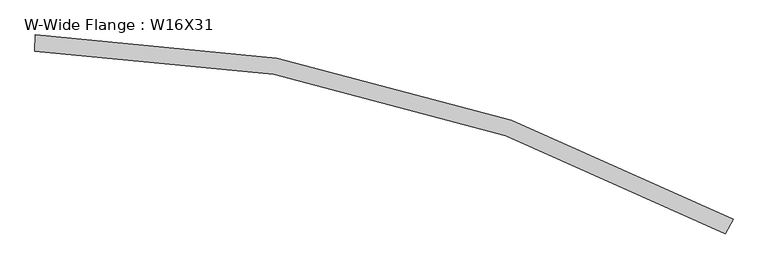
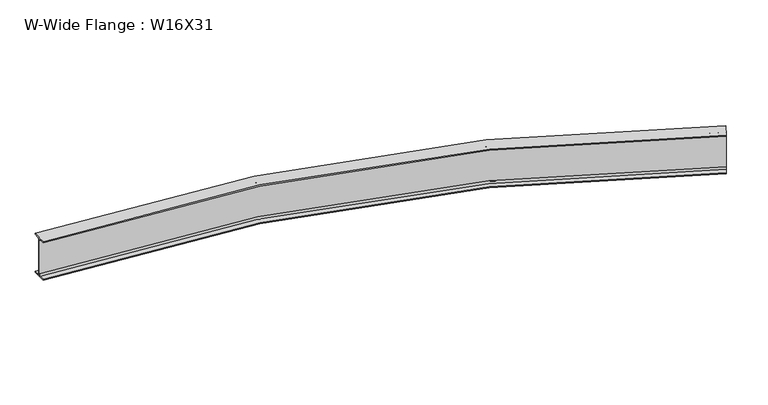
"""IFC4 building model written with IfcOpenShell, lengths in millimetres: beam geometry, W-Wide Flange : W16X31."""

from ifc_helpers import new_model, si_unit, point, frame, origin, place, context, project, spatial, polyline, circle_curve, ellipse_curve, trimmed, source, transform, mapped, element, save
from ifc_brep_helpers import plane_surface, cylinder_surface, revolved_surface, advanced_brep


def w_wide_flange_w16x31_2595adc3(model_context):
    return source(origin(), model_context, "Body", "AdvancedBrep", [
        advanced_brep(
        [(6106.6437094, -1493.8987471, -190.754), (6082.9245949, -1537.162934, -190.754), (6074.5603254, -1552.4195456, -173.355), (6074.5603254, -1552.4195456, 173.355), (6082.9245949, -1537.162934, 190.754), (6106.6437094, -1493.8987471, 190.754), (6106.6437094, -1493.8987471, 201.93), (6039.1190231, -1617.0652612, 201.93), (6039.1190231, -1617.0652612, 190.754), (6062.8381376, -1573.8010743, 190.754), (6071.202407, -1558.5444627, 173.355), (6071.202407, -1558.5444627, -173.355), (6062.8381376, -1573.8010743, -190.754), (6039.1190231, -1617.0652612, -190.754), (6039.1190231, -1617.0652612, -201.93), (6106.6437094, -1493.8987471, -201.93), (187.278858, 68.8503861, -190.754), (187.278858, 68.8503861, -201.93), (185.2080076, -71.5963477, -201.93), (185.2080076, -71.5963477, -190.754), (185.9354266, -22.2622102, -190.754), (186.1919424, -4.8651012, -173.355), (186.1919424, -4.8651012, 173.355), (185.9354266, -22.2622102, 190.754), (185.2080076, -71.5963477, 190.754), (185.2080076, -71.5963477, 201.93), (187.278858, 68.8503861, 201.93), (187.278858, 68.8503861, 190.754), (186.551439, 19.5162486, 190.754), (186.2949232, 2.1191396, 173.355), (186.2949232, 2.1191396, -173.355), (186.551439, 19.5162486, -190.754)],
        [
            (0, 1),
            (1, 2, circle_curve(frame((6082.9245949, -1537.162934, -173.355), z_axis=(-0.8768671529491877, 0.4807327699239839, 0.0), x_axis=(-0.4807327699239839, -0.8768671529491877, 0.0)), 17.399)),
            (2, 3),
            (3, 4, circle_curve(frame((6082.9245949, -1537.162934, 173.355), z_axis=(-0.8768671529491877, 0.4807327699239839, 0.0), x_axis=(-0.4807327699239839, -0.8768671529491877, 0.0)), 17.399)),
            (4, 5),
            (5, 6),
            (6, 7),
            (7, 8),
            (8, 9),
            (9, 10, circle_curve(frame((6062.8381376, -1573.8010743, 173.355), z_axis=(-0.8768671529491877, 0.4807327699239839, 0.0), x_axis=(-0.4807327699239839, -0.8768671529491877, 0.0)), 17.399)),
            (10, 11),
            (11, 12, circle_curve(frame((6062.8381376, -1573.8010743, -173.355), z_axis=(-0.8768671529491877, 0.4807327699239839, 0.0), x_axis=(-0.4807327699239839, -0.8768671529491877, 0.0)), 17.399)),
            (12, 13),
            (13, 14),
            (14, 15),
            (15, 0),
            (16, 17),
            (17, 18),
            (18, 19),
            (19, 20),
            (20, 21, circle_curve(frame((185.9354266, -22.2622102, -173.355), z_axis=(0.999891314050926, -0.014743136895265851, 0.0), x_axis=(-0.014743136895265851, -0.999891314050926, 0.0)), 17.399)),
            (21, 22),
            (22, 23, circle_curve(frame((185.9354266, -22.2622102, 173.355), z_axis=(0.999891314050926, -0.014743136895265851, 0.0), x_axis=(-0.014743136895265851, -0.999891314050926, 0.0)), 17.399)),
            (23, 24),
            (24, 25),
            (25, 26),
            (26, 27),
            (27, 28),
            (28, 29, circle_curve(frame((186.551439, 19.5162486, 173.355), z_axis=(0.999891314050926, -0.014743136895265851, 0.0), x_axis=(-0.014743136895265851, -0.999891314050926, 0.0)), 17.399)),
            (29, 30),
            (30, 31, circle_curve(frame((186.551439, 19.5162486, -173.355), z_axis=(0.999891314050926, -0.014743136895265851, 0.0), x_axis=(-0.014743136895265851, -0.999891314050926, 0.0)), 17.399)),
            (31, 16),
            (0, 16, circle_curve(frame((0.0, -12632.5512762, -190.754), z_axis=(0.0, 0.0, 1.0), x_axis=(-0.5014171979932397, -0.8652056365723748, 0.0)), 12702.7822762)),
            (31, 1, circle_curve(frame((0.0, -12632.5512762, -190.754), z_axis=(0.0, 0.0, -1.0), x_axis=(-0.5014171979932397, -0.8652056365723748, 0.0)), 12653.4427762)),
            (30, 2, circle_curve(frame((0.0, -12632.5512762, -173.355), z_axis=(0.0, 0.0, -1.0), x_axis=(-0.5014171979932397, -0.8652056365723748, 0.0)), 12636.0437762)),
            (29, 3, circle_curve(frame((0.0, -12632.5512762, 173.355), z_axis=(0.0, 0.0, -1.0), x_axis=(-0.5014171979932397, -0.8652056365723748, 0.0)), 12636.0437762)),
            (28, 4, circle_curve(frame((0.0, -12632.5512762, 190.754), z_axis=(0.0, 0.0, -1.0), x_axis=(-0.5014171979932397, -0.8652056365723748, 0.0)), 12653.4427762)),
            (27, 5, circle_curve(frame((0.0, -12632.5512762, 190.754), z_axis=(0.0, 0.0, -1.0), x_axis=(-0.5014171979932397, -0.8652056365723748, 0.0)), 12702.7822762)),
            (26, 6, circle_curve(frame((0.0, -12632.5512762, 201.93), z_axis=(0.0, 0.0, -1.0), x_axis=(-0.5014171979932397, -0.8652056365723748, 0.0)), 12702.7822762)),
            (25, 7, circle_curve(frame((0.0, -12632.5512762, 201.93), z_axis=(0.0, 0.0, -1.0), x_axis=(-0.5014171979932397, -0.8652056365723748, 0.0)), 12562.3202762)),
            (24, 8, circle_curve(frame((0.0, -12632.5512762, 190.754), z_axis=(0.0, 0.0, -1.0), x_axis=(-0.5014171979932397, -0.8652056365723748, 0.0)), 12562.3202762)),
            (23, 9, circle_curve(frame((0.0, -12632.5512762, 190.754), z_axis=(0.0, 0.0, -1.0), x_axis=(-0.5014171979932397, -0.8652056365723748, 0.0)), 12611.6597762)),
            (22, 10, circle_curve(frame((0.0, -12632.5512762, 173.355), z_axis=(0.0, 0.0, -1.0), x_axis=(-0.5014171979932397, -0.8652056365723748, 0.0)), 12629.0587762)),
            (21, 11, circle_curve(frame((0.0, -12632.5512762, -173.355), z_axis=(0.0, 0.0, -1.0), x_axis=(-0.5014171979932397, -0.8652056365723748, 0.0)), 12629.0587762)),
            (20, 12, circle_curve(frame((0.0, -12632.5512762, -190.754), z_axis=(0.0, 0.0, -1.0), x_axis=(-0.5014171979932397, -0.8652056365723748, 0.0)), 12611.6597762)),
            (19, 13, circle_curve(frame((0.0, -12632.5512762, -190.754), z_axis=(0.0, 0.0, -1.0), x_axis=(-0.5014171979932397, -0.8652056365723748, 0.0)), 12562.3202762)),
            (18, 14, circle_curve(frame((0.0, -12632.5512762, -201.93), z_axis=(0.0, 0.0, -1.0), x_axis=(-0.5014171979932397, -0.8652056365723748, 0.0)), 12562.3202762)),
            (17, 15, circle_curve(frame((0.0, -12632.5512762, -201.93), z_axis=(0.0, 0.0, -1.0), x_axis=(-0.5014171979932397, -0.8652056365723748, 0.0)), 12702.7822762)),
        ],
        [
            plane_surface(frame((6072.8813662, -1555.4820042, 0.0), z_axis=(0.8768671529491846, -0.4807327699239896, 0.0), x_axis=(0.0, 0.0, 1.0))),
            plane_surface(frame((186.2434328, -1.3729808, 0.0), z_axis=(-0.9998913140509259, 0.014743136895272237, 0.0), x_axis=(0.0, 0.0, 1.0))),
            plane_surface(frame((0.0, -12632.5512762, -190.754), z_axis=(0.0, 0.0, 1.0), x_axis=(-0.5014171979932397, -0.8652056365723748, 0.0))),
            revolved_surface(trimmed(ellipse_curve(frame((-6344.6538218, -23580.3812883, -173.355), z_axis=(-0.865205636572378, 0.5014171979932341, 0.0), x_axis=(0.5014171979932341, 0.865205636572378, 0.0)), 17.399, 17.399), [point((-6335.929664, -23565.3275754, -173.355))], [point((-6344.6538218, -23580.3812883, -190.754))], True, "CARTESIAN"), (0.0, -12632.5512762, 0.0), (0.0, 0.0, -1.0)),
            cylinder_surface(frame((0.0, -12632.5512762, 0.0), z_axis=(0.0, 0.0, -1.0), x_axis=(-0.5014171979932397, -0.8652056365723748, 0.0)), 12636.0437762),
            revolved_surface(trimmed(ellipse_curve(frame((-6344.6538218, -23580.3812883, 173.355), z_axis=(-0.865205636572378, 0.5014171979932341, 0.0), x_axis=(0.5014171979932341, 0.865205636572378, 0.0)), 17.399, 17.399), [point((-6344.6538218, -23580.3812883, 190.754))], [point((-6335.929664, -23565.3275754, 173.355))], True, "CARTESIAN"), (0.0, -12632.5512762, 0.0), (0.0, 0.0, -1.0)),
            plane_surface(frame((0.0, -12632.5512762, 190.754), z_axis=(0.0, 0.0, -1.0), x_axis=(-0.5014171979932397, -0.8652056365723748, 0.0))),
            cylinder_surface(frame((0.0, -12632.5512762, 0.0), z_axis=(0.0, 0.0, -1.0), x_axis=(-0.5014171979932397, -0.8652056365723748, 0.0)), 12702.7822762),
            plane_surface(frame((0.0, -12632.5512762, 201.93), z_axis=(0.0, 0.0, 1.0), x_axis=(-0.5014171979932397, -0.8652056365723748, 0.0))),
            revolved_surface(polyline([(-6298.963433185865, -23501.54158759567, 190.754), (-6298.963433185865, -23501.54158759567, 201.93)]), (0.0, -12632.5512762, 0.0), (0.0, 0.0, -1.0)),
            revolved_surface(trimmed(ellipse_curve(frame((-6323.703107, -23544.2304011, 173.355), z_axis=(-0.865205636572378, 0.5014171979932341, 0.0), x_axis=(0.5014171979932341, 0.865205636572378, 0.0)), 17.399, 17.399), [point((-6332.4272649, -23559.284114, 173.355))], [point((-6323.703107, -23544.2304011, 190.754))], True, "CARTESIAN"), (0.0, -12632.5512762, 0.0), (0.0, 0.0, -1.0)),
            revolved_surface(polyline([(-6332.427264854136, -23559.284113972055, -173.355), (-6332.427264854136, -23559.284113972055, 173.355)]), (0.0, -12632.5512762, 0.0), (0.0, 0.0, -1.0)),
            revolved_surface(trimmed(ellipse_curve(frame((-6323.703107, -23544.2304011, -173.355), z_axis=(-0.865205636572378, 0.5014171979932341, 0.0), x_axis=(0.5014171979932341, 0.865205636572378, 0.0)), 17.399, 17.399), [point((-6323.703107, -23544.2304011, -190.754))], [point((-6332.4272649, -23559.284114, -173.355))], True, "CARTESIAN"), (0.0, -12632.5512762, 0.0), (0.0, 0.0, -1.0)),
            revolved_surface(polyline([(-6298.963433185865, -23501.54158759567, -201.93), (-6298.963433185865, -23501.54158759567, -190.754)]), (0.0, -12632.5512762, 0.0), (0.0, 0.0, -1.0)),
            plane_surface(frame((0.0, -12632.5512762, -201.93), z_axis=(0.0, 0.0, -1.0), x_axis=(-0.5014171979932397, -0.8652056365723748, 0.0))),
        ],
        [
            (0, [[1, 2, 3, 4, 5, 6, 7, 8, 9, 10, 11, 12, 13, 14, 15, 16]]),
            (1, [[17, 18, 19, 20, 21, 22, 23, 24, 25, 26, 27, 28, 29, 30, 31, 32]]),
            (2, [[-1, 33, -32, 34]]),
            (3, [[-2, -34, -31, 35]]),
            (4, [[-3, -35, -30, 36]]),
            (5, [[-4, -36, -29, 37]]),
            (6, [[-5, -37, -28, 38]]),
            (7, [[-6, -38, -27, 39]]),
            (8, [[-7, -39, -26, 40]]),
            (9, [[-8, -40, -25, 41]]),
            (6, [[-9, -41, -24, 42]]),
            (10, [[-10, -42, -23, 43]]),
            (11, [[-11, -43, -22, 44]]),
            (12, [[-12, -44, -21, 45]]),
            (2, [[-13, -45, -20, 46]]),
            (13, [[-14, -46, -19, 47]]),
            (14, [[-15, -47, -18, 48]]),
            (7, [[-16, -48, -17, -33]]),
        ],
    ),
    ])


if __name__ == "__main__":
    model = new_model("IFC4")
    model_context = context("Model", 3, world=origin())
    ifc_project = project(units=[si_unit("LENGTHUNIT", "METRE", prefix="MILLI")], contexts=[model_context])
    site = spatial("IfcSite", under=ifc_project)
    building = spatial("IfcBuilding", under=site)
    placement = place(None, origin())
    w_wide_flange_w16x31_shape = w_wide_flange_w16x31_2595adc3(model_context)
    element("IfcBeam", 1, ObjectType="W-Wide Flange : W16X31", at=placement, inside=building, context=model_context, shape_type="MappedRepresentation", body=[
        mapped(w_wide_flange_w16x31_shape, transform((0.0, 0.0, 0.0), x_axis=(1.0, 0.0, 0.0), y_axis=(0.0, 1.0, 0.0), z_axis=(0.0, 0.0, 1.0))),
    ])
    save(model, "model.ifc")
